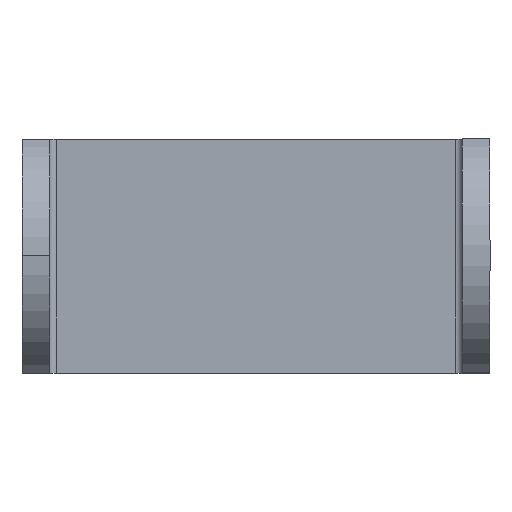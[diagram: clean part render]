
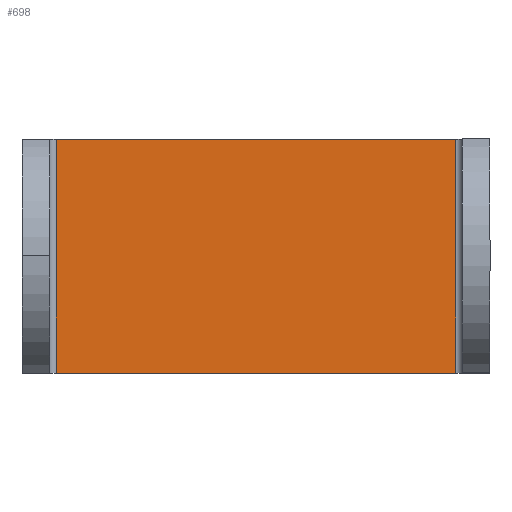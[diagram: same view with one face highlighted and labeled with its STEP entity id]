
A CAD part, top view. The second image highlights one B-rep face of the part: STEP entity #698.
In plain terms, the highlighted planar face has unit normal (0, 0, 1).
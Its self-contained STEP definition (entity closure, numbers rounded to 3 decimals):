
#42 = DIRECTION ( 'NONE',  ( -1., 0., 0. ) ) ;
#56 = EDGE_CURVE ( 'NONE', #218, #497, #469, .T. ) ;
#118 = LINE ( 'NONE', #130, #207 ) ;
#130 = CARTESIAN_POINT ( 'NONE',  ( -14.5, -8.5, 0. ) ) ;
#176 = DIRECTION ( 'NONE',  ( -1., 0., 0. ) ) ;
#207 = VECTOR ( 'NONE', #309, 1000. ) ;
#210 = AXIS2_PLACEMENT_3D ( 'NONE', #595, #701, #176 ) ;
#218 = VERTEX_POINT ( 'NONE', #391 ) ;
#257 = ORIENTED_EDGE ( 'NONE', *, *, #393, .F. ) ;
#277 = EDGE_CURVE ( 'NONE', #316, #687, #467, .T. ) ;
#309 = DIRECTION ( 'NONE',  ( 0., 1., 0. ) ) ;
#315 = DIRECTION ( 'NONE',  ( 1., 0., 0. ) ) ;
#316 = VERTEX_POINT ( 'NONE', #549 ) ;
#391 = CARTESIAN_POINT ( 'NONE',  ( -14.5, -8.5, 0. ) ) ;
#393 = EDGE_CURVE ( 'NONE', #218, #687, #118, .T. ) ;
#446 = VECTOR ( 'NONE', #42, 1000. ) ;
#467 = LINE ( 'NONE', #480, #446 ) ;
#469 = LINE ( 'NONE', #668, #533 ) ;
#471 = CARTESIAN_POINT ( 'NONE',  ( -14.5, 8.5, 0. ) ) ;
#480 = CARTESIAN_POINT ( 'NONE',  ( -17., 8.5, 0. ) ) ;
#487 = ORIENTED_EDGE ( 'NONE', *, *, #277, .T. ) ;
#497 = VERTEX_POINT ( 'NONE', #673 ) ;
#533 = VECTOR ( 'NONE', #315, 1000. ) ;
#539 = LINE ( 'NONE', #541, #638 ) ;
#541 = CARTESIAN_POINT ( 'NONE',  ( 14.5, 8.5, 0. ) ) ;
#544 = EDGE_LOOP ( 'NONE', ( #764, #487, #257, #578 ) ) ;
#549 = CARTESIAN_POINT ( 'NONE',  ( 14.5, 8.5, 0. ) ) ;
#578 = ORIENTED_EDGE ( 'NONE', *, *, #56, .T. ) ;
#595 = CARTESIAN_POINT ( 'NONE',  ( 0., 0., 0. ) ) ;
#612 = DIRECTION ( 'NONE',  ( 0., -1., 0. ) ) ;
#631 = FACE_OUTER_BOUND ( 'NONE', #544, .T. ) ;
#638 = VECTOR ( 'NONE', #612, 1000. ) ;
#663 = EDGE_CURVE ( 'NONE', #316, #497, #539, .T. ) ;
#668 = CARTESIAN_POINT ( 'NONE',  ( -17., -8.5, 0. ) ) ;
#673 = CARTESIAN_POINT ( 'NONE',  ( 14.5, -8.5, 0. ) ) ;
#687 = VERTEX_POINT ( 'NONE', #471 ) ;
#698 = ADVANCED_FACE ( 'NONE', ( #631 ), #768, .F. ) ;
#701 = DIRECTION ( 'NONE',  ( 0., 0., -1. ) ) ;
#764 = ORIENTED_EDGE ( 'NONE', *, *, #663, .F. ) ;
#768 = PLANE ( 'NONE',  #210 ) ;
